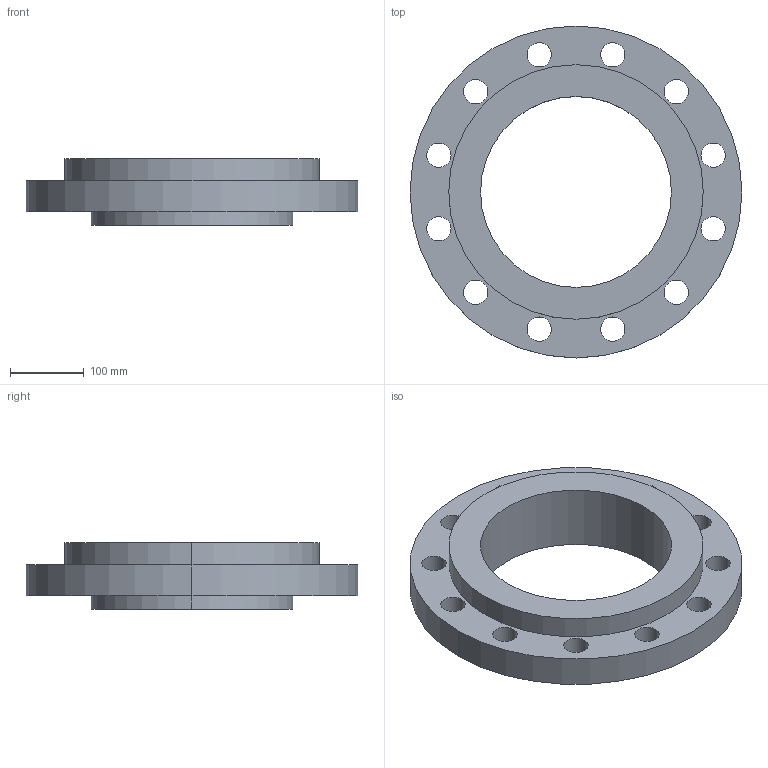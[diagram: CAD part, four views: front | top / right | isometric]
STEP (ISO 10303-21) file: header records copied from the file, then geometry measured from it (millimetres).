
FILE_DESCRIPTION (( 'STEP AP214' ), '1' );
FILE_NAME ('PN40 DN250 Type 04 in 34 - (Type A Face).STEP', '2019-01-05T16:37:11', ( '' ), ( '' ), 'SwSTEP 2.0', 'SolidWorks 2019', '' );
FILE_SCHEMA (( 'AUTOMOTIVE_DESIGN' ));
Length unit declared in the file: millimetre
Products named in the file (1): PN40 DN250 Type 04 in 34 - (Type A Face)
Bounding box: 450 x 450 x 90 mm (x, y, z)
Volume: 4726175.7 mm3; surface area: 523151.3 mm2
Topology: 2 solids, 2 shells, 45 faces, 114 edges, 74 vertices
Faces by surface type: cylinder 34, cone 6, plane 5
Entity records: 1493 total; most frequent: DIRECTION 280, CARTESIAN_POINT 234, ORIENTED_EDGE 228, AXIS2_PLACEMENT_3D 120, EDGE_CURVE 114, CIRCLE 74, EDGE_LOOP 74, VERTEX_POINT 74
